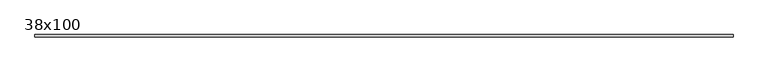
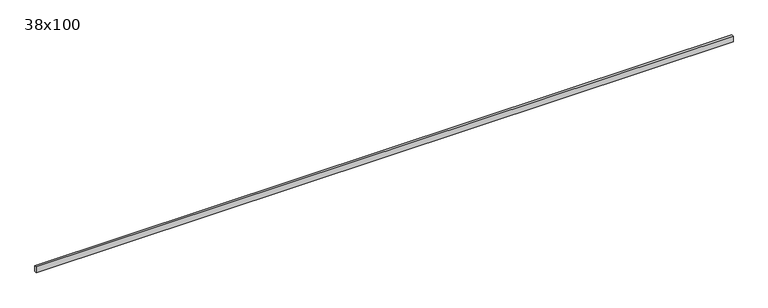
"""IFC4 building model written with IfcOpenShell, lengths in millimetres: beam geometry, Poutre - Bois de construction de dimensions courantes : 38x100."""

import ifcopenshell
import ifcopenshell.guid

model = None  # the IFC model being written
_history = None  # IfcOwnerHistory: only IFC2X3 demands one
_inside = {}  # id of a spatial element -> (the spatial element, [elements in it])
_under = {}  # id of a project, library or spatial element -> (it, [spatial elements below it])
_declared = {}  # id of a project -> (the project, [libraries it declares])
_typed = {}  # id of a type object -> (the type object, [elements of that type])
_made_of = {}  # id of a material, layer set ... -> (it, [elements and type objects made of it])


def new_model(schema):
    """Start an empty IFC model of exactly this schema.

    Asked for "IFC4X3", IfcOpenShell would pick the latest addendum, in which some entities
    have other attributes; the version numbers below select the first issue.
    IFC2X3 requires an IfcOwnerHistory on every rooted entity: one is made here for all.
    """
    global model, _history
    if schema == "IFC4X3":
        model = ifcopenshell.file(schema_version=(4, 3, 0, 0))
    else:
        model = ifcopenshell.file(schema=schema)
    _inside.clear()
    _under.clear()
    _declared.clear()
    _typed.clear()
    _made_of.clear()
    _history = None
    if model.schema == "IFC2X3":
        org = make("IfcOrganization", Name="unknown")
        user = make(
            "IfcPersonAndOrganization",
            ThePerson=make("IfcPerson", FamilyName="unknown"),
            TheOrganization=org,
        )
        app = make(
            "IfcApplication",
            ApplicationDeveloper=org,
            Version="unknown",
            ApplicationFullName="unknown",
            ApplicationIdentifier="unknown",
        )
        _history = make(
            "IfcOwnerHistory",
            OwningUser=user,
            OwningApplication=app,
            ChangeAction="ADDED",
            CreationDate=0,
        )
    return model


def make(cls, **values):
    """One entity of the class cls with the attributes given. An attribute that is None is left unset."""
    return model.create_entity(
        cls, **{name: value for name, value in values.items() if value is not None}
    )


def rooted(cls, **values):
    """An entity with a GlobalId (a new one), such as an element, a storey or a relation."""
    return make(cls, GlobalId=ifcopenshell.guid.new(), OwnerHistory=_history, **values)


def si_unit(unit_type, name, prefix=None):
    """IfcSIUnit, for example si_unit("LENGTHUNIT", "METRE", prefix="MILLI")."""
    return make("IfcSIUnit", UnitType=unit_type, Prefix=prefix, Name=name)


def assignment(units):
    """IfcUnitAssignment: the units of a project."""
    return None if units is None else make("IfcUnitAssignment", Units=units)


def point(xyz):
    """IfcCartesianPoint."""
    return None if xyz is None else make("IfcCartesianPoint", Coordinates=xyz)


def direction(xyz):
    """IfcDirection."""
    return None if xyz is None else make("IfcDirection", DirectionRatios=xyz)


def frame(location, z_axis=None, x_axis=None):
    """IfcAxis2Placement3D, a coordinate frame: its origin and axes. An axis left out is left unset."""
    return make(
        "IfcAxis2Placement3D",
        Location=point(location),
        Axis=direction(z_axis),
        RefDirection=direction(x_axis),
    )


def origin():
    """The frame at (0, 0, 0) with its axes left unset."""
    return frame((0.0, 0.0, 0.0))


def place(relative_to, where):
    """IfcLocalPlacement: puts the frame where relative to a parent placement (None: the world)."""
    return make(
        "IfcLocalPlacement", PlacementRelTo=relative_to, RelativePlacement=where
    )


def context(
    kind, dimensions, precision=None, world=None, true_north=None, identifier=None
):
    """IfcGeometricRepresentationContext, for example the 3D "Model" context."""
    return make(
        "IfcGeometricRepresentationContext",
        ContextIdentifier=identifier,
        ContextType=kind,
        CoordinateSpaceDimension=dimensions,
        Precision=precision,
        WorldCoordinateSystem=world,
        TrueNorth=true_north,
    )


def project(units=None, contexts=None):
    """IfcProject with its units and contexts."""
    return rooted(
        "IfcProject",
        Name="project",
        RepresentationContexts=contexts,
        UnitsInContext=assignment(units),
    )


def spatial(cls, under=None, at=None, **own):
    """A site, building, storey or space (cls), placed at a placement, below another one or the project."""
    s = rooted(cls, ObjectPlacement=at, **own)
    if under is not None:
        _under.setdefault(under.id(), (under, []))[1].append(s)
    return s


def polyline(points):
    """IfcPolyline through the points."""
    return make("IfcPolyline", Points=[point(p) for p in points])


def outline(outer, holes=None, kind="AREA"):
    """IfcArbitraryClosedProfileDef: a profile drawn as a closed curve; with holes, ...WithVoids."""
    if holes is None:
        return make("IfcArbitraryClosedProfileDef", ProfileType=kind, OuterCurve=outer)
    return make(
        "IfcArbitraryProfileDefWithVoids",
        ProfileType=kind,
        OuterCurve=outer,
        InnerCurves=holes,
    )


def extrude(swept, where, along, depth):
    """IfcExtrudedAreaSolid: the profile swept, set in the frame where, extruded along a direction by depth."""
    return make(
        "IfcExtrudedAreaSolid",
        SweptArea=swept,
        Position=where,
        ExtrudedDirection=direction(along),
        Depth=depth,
    )


def shape(context_of_items, identifier, shape_type, items):
    """IfcShapeRepresentation: the items that make up one representation, for example the "Body"."""
    return make(
        "IfcShapeRepresentation",
        ContextOfItems=context_of_items,
        RepresentationIdentifier=identifier,
        RepresentationType=shape_type,
        Items=items,
    )


def source(mapping_origin, context_of_items, identifier, shape_type, items):
    """IfcRepresentationMap: a shape defined once, which mapped items show again and again."""
    return make(
        "IfcRepresentationMap",
        MappingOrigin=mapping_origin,
        MappedRepresentation=shape(context_of_items, identifier, shape_type, items),
    )


def transform(
    local_origin,
    x_axis=None,
    y_axis=None,
    z_axis=None,
    scale=None,
    scale2=None,
    scale3=None,
    uniform=True,
):
    """IfcCartesianTransformationOperator3D, or its non-uniform kind. x_axis, y_axis, z_axis: its Axis1, 2, 3."""
    if uniform:
        return make(
            "IfcCartesianTransformationOperator3D",
            Axis1=direction(x_axis),
            Axis2=direction(y_axis),
            LocalOrigin=point(local_origin),
            Scale=scale,
            Axis3=direction(z_axis),
        )
    return make(
        "IfcCartesianTransformationOperator3DnonUniform",
        Axis1=direction(x_axis),
        Axis2=direction(y_axis),
        LocalOrigin=point(local_origin),
        Scale=scale,
        Axis3=direction(z_axis),
        Scale2=scale2,
        Scale3=scale3,
    )


def mapped(mapping_source, mapping_target):
    """IfcMappedItem: shows the shape of a source again, moved by a transform."""
    return make(
        "IfcMappedItem", MappingSource=mapping_source, MappingTarget=mapping_target
    )


def made_of(thing, what):
    """Note that an element or type object is made of a material, layer set ...; save() writes the relation."""
    if what is not None:
        _made_of.setdefault(what.id(), (what, []))[1].append(thing)
    return thing


def element(
    cls,
    number,
    at=None,
    inside=None,
    cuts=None,
    type_object=None,
    material=None,
    context=None,
    identifier="Body",
    shape_type=None,
    held_by="IfcProductDefinitionShape",
    body=None,
    shapes=None,
    **own,
):
    """One element of the class cls, such as IfcWall. Its Tag is "e" and its number.

    at: its placement. inside: the storey or other place that contains it. cuts: it is an
    opening in that element (IfcRelVoidsElement). A single representation is given by context,
    identifier, shape_type and body (its items); several are given by shapes. held_by: the class
    of the entity that holds the representations. save() writes the other relations.
    """
    e = rooted(cls, Tag="e%d" % number, ObjectPlacement=at, **own)
    if body is not None:
        shapes = [shape(context, identifier, shape_type, body)]
    if shapes is not None:
        e.Representation = make(held_by, Representations=shapes)
    if inside is not None:
        _inside.setdefault(inside.id(), (inside, []))[1].append(e)
    if cuts is not None:
        rooted(
            "IfcRelVoidsElement", RelatingBuildingElement=cuts, RelatedOpeningElement=e
        )
    if type_object is not None:
        _typed.setdefault(type_object.id(), (type_object, []))[1].append(e)
    return made_of(e, material)


def aggregate(whole, parts):
    """IfcRelAggregates: a whole, such as a stair, and the parts it consists of."""
    return rooted("IfcRelAggregates", RelatingObject=whole, RelatedObjects=parts)


def save(model, path):
    """Write the relations noted so far, then the file.

    IfcRelAggregates (storeys below a building ...), IfcRelContainedInSpatialStructure (elements
    in a storey), IfcRelDefinesByType, IfcRelAssociatesMaterial and IfcRelDeclares: one each for
    every whole, place, type object, material and project.
    """
    for whole, parts in _under.values():
        aggregate(whole, parts)
    for where, things in _inside.values():
        rooted(
            "IfcRelContainedInSpatialStructure",
            RelatedElements=things,
            RelatingStructure=where,
        )
    for kind, things in _typed.values():
        rooted("IfcRelDefinesByType", RelatedObjects=things, RelatingType=kind)
    for what, things in _made_of.values():
        rooted("IfcRelAssociatesMaterial", RelatedObjects=things, RelatingMaterial=what)
    for by, libraries in _declared.values():
        rooted("IfcRelDeclares", RelatingContext=by, RelatedDefinitions=libraries)
    model.write(path)


def beam_38x100_3ea25a11(model_context):
    return source(origin(), model_context, "Body", "SweptSolid", [
        extrude(outline(polyline([(5682.0, 19.05), (5682.0, -19.05), (-5848.0, -19.05), (-5848.0, 19.05), (5682.0, 19.05)])), frame((0.0, 0.0, -50.0), z_axis=(0.0, 0.0, 1.0), x_axis=(1.0, 0.0, 0.0)), (0.0, 0.0, 1.0), 100.0),
    ])


if __name__ == "__main__":
    model = new_model("IFC4")
    model_context = context("Model", 3, world=origin())
    ifc_project = project(units=[si_unit("LENGTHUNIT", "METRE", prefix="MILLI")], contexts=[model_context])
    site = spatial("IfcSite", under=ifc_project)
    building = spatial("IfcBuilding", under=site)
    placement = place(None, origin())
    beam_38x100_shape = beam_38x100_3ea25a11(model_context)
    element("IfcBeam", 1, ObjectType="Poutre - Bois de construction de dimensions courantes : 38x100", at=placement, inside=building, context=model_context, shape_type="MappedRepresentation", body=[
        mapped(beam_38x100_shape, transform((0.0, 0.0, 0.0), x_axis=(1.0, 0.0, 0.0), y_axis=(0.0, 1.0, 0.0), z_axis=(0.0, 0.0, 1.0))),
    ])
    save(model, "model.ifc")
